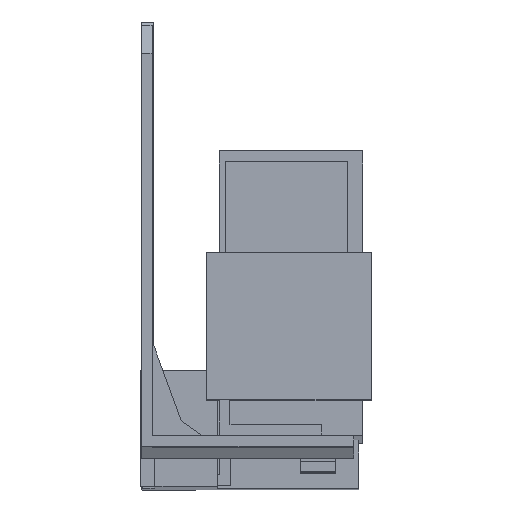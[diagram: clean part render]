
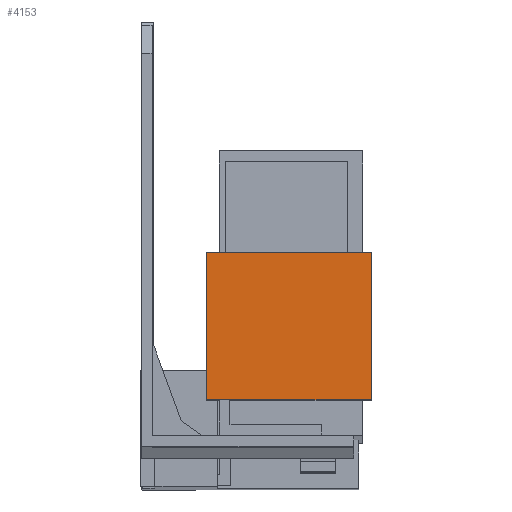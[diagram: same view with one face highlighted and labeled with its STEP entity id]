
A CAD part, front view. The second image highlights one B-rep face of the part: STEP entity #4153.
In plain terms, the highlighted planar face has unit normal (0, -1, 0.003).
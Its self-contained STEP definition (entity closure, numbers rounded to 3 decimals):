
#152 = AXIS2_PLACEMENT_3D ( 'NONE', #5235, #5056, #5055 ) ;
#397 = VECTOR ( 'NONE', #6605, 1000. ) ;
#398 = LINE ( 'NONE', #6627, #397 ) ;
#483 = VECTOR ( 'NONE', #1173, 1000. ) ;
#500 = LINE ( 'NONE', #1166, #483 ) ;
#609 = VECTOR ( 'NONE', #6462, 1000. ) ;
#612 = LINE ( 'NONE', #6454, #609 ) ;
#748 = LINE ( 'NONE', #1477, #749 ) ;
#749 = VECTOR ( 'NONE', #1478, 1000. ) ;
#1166 = CARTESIAN_POINT ( 'NONE',  ( 32.7, -29.009, -40.322 ) ) ;
#1173 = DIRECTION ( 'NONE',  ( 0., 0.003, 1. ) ) ;
#1477 = CARTESIAN_POINT ( 'NONE',  ( 9.3, -29.009, -40.322 ) ) ;
#1478 = DIRECTION ( 'NONE',  ( 1., 0., 0. ) ) ;
#1947 = CARTESIAN_POINT ( 'NONE',  ( 9.3, -28.952, -19.322 ) ) ;
#1949 = CARTESIAN_POINT ( 'NONE',  ( 32.7, -28.952, -19.322 ) ) ;
#1953 = CARTESIAN_POINT ( 'NONE',  ( 32.7, -29.009, -40.322 ) ) ;
#1954 = CARTESIAN_POINT ( 'NONE',  ( 9.3, -29.009, -40.322 ) ) ;
#2726 = FACE_OUTER_BOUND ( 'NONE', #3058, .T. ) ;
#3058 = EDGE_LOOP ( 'NONE', ( #5837, #5838, #5839, #5840 ) ) ;
#4153 = ADVANCED_FACE ( 'NONE', ( #2726 ), #5238, .T. ) ;
#4414 = EDGE_CURVE ( 'NONE', #5642, #5632, #612, .T. ) ;
#4434 = EDGE_CURVE ( 'NONE', #5632, #5637, #398, .T. ) ;
#4511 = EDGE_CURVE ( 'NONE', #5641, #5637, #500, .T. ) ;
#4655 = EDGE_CURVE ( 'NONE', #5642, #5641, #748, .T. ) ;
#5055 = DIRECTION ( 'NONE',  ( -1., 0., 0. ) ) ;
#5056 = DIRECTION ( 'NONE',  ( 0., -1., 0.003 ) ) ;
#5235 = CARTESIAN_POINT ( 'NONE',  ( 9.3, -29.009, -40.322 ) ) ;
#5238 = PLANE ( 'NONE',  #152 ) ;
#5632 = VERTEX_POINT ( 'NONE', #1947 ) ;
#5637 = VERTEX_POINT ( 'NONE', #1949 ) ;
#5641 = VERTEX_POINT ( 'NONE', #1953 ) ;
#5642 = VERTEX_POINT ( 'NONE', #1954 ) ;
#5837 = ORIENTED_EDGE ( 'NONE', *, *, #4434, .F. ) ;
#5838 = ORIENTED_EDGE ( 'NONE', *, *, #4414, .F. ) ;
#5839 = ORIENTED_EDGE ( 'NONE', *, *, #4655, .T. ) ;
#5840 = ORIENTED_EDGE ( 'NONE', *, *, #4511, .T. ) ;
#6454 = CARTESIAN_POINT ( 'NONE',  ( 9.3, -29.009, -40.322 ) ) ;
#6462 = DIRECTION ( 'NONE',  ( 0., 0.003, 1. ) ) ;
#6605 = DIRECTION ( 'NONE',  ( 1., 0., 0. ) ) ;
#6627 = CARTESIAN_POINT ( 'NONE',  ( 9.3, -28.952, -19.322 ) ) ;
